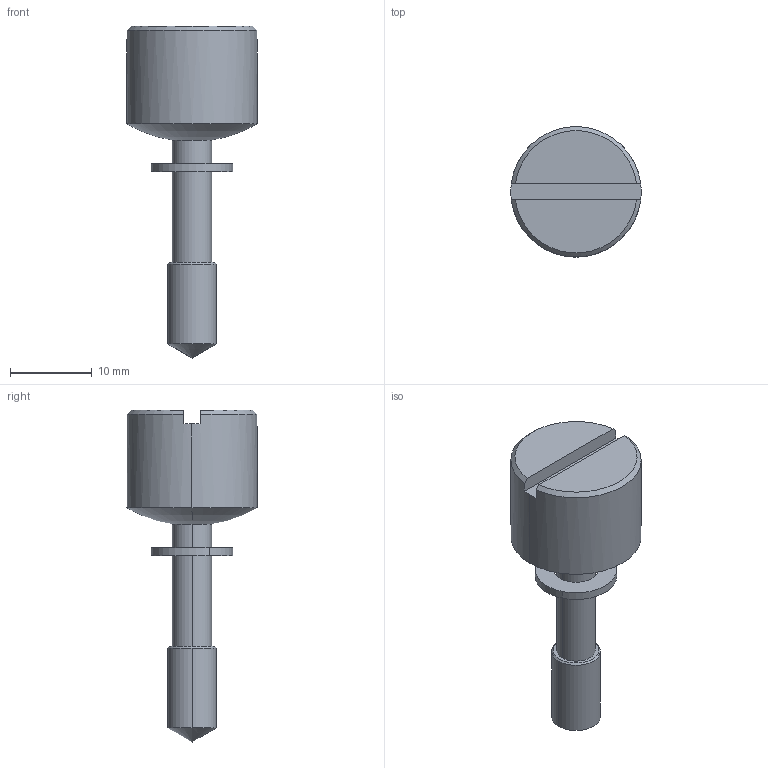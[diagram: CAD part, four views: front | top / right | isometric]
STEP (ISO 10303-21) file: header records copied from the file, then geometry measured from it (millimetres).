
FILE_DESCRIPTION (( 'STEP AP203' ), '1' );
FILE_NAME ('SCR-MK103(S)-7.STEP', '2013-07-02T09:36:18', ( 'SDS' ), ( 'SDS' ), 'SwSTEP 2.0', 'SolidWorks 2002296', '' );
FILE_SCHEMA (( 'CONFIG_CONTROL_DESIGN' ));
Length unit declared in the file: millimetre
Products named in the file (3): SCR-MK103(S)-7; SCR-MK103(S)-7-1_蹬怮椔; SCR-MK103(S)-7-2_蹬怮椔
Assembly tree (2 placements, depth 2):
  SCR-MK103(S)-7
    SCR-MK103(S)-7-2_蹬怮椔
    SCR-MK103(S)-7-1_蹬怮椔
Bounding box: 16 x 16 x 40.73 mm (x, y, z)
Volume: 3203 mm3; surface area: 1648.6 mm2
Topology: 2 solids, 2 shells, 26 faces, 58 edges, 35 vertices
Faces by surface type: cylinder 10, plane 8, cone 6, torus 2
Entity records: 1027 total; most frequent: DIRECTION 144, CARTESIAN_POINT 134, ORIENTED_EDGE 112, AXIS2_PLACEMENT_3D 61, EDGE_CURVE 56, VERTEX_POINT 35, CIRCLE 30, EDGE_LOOP 29
